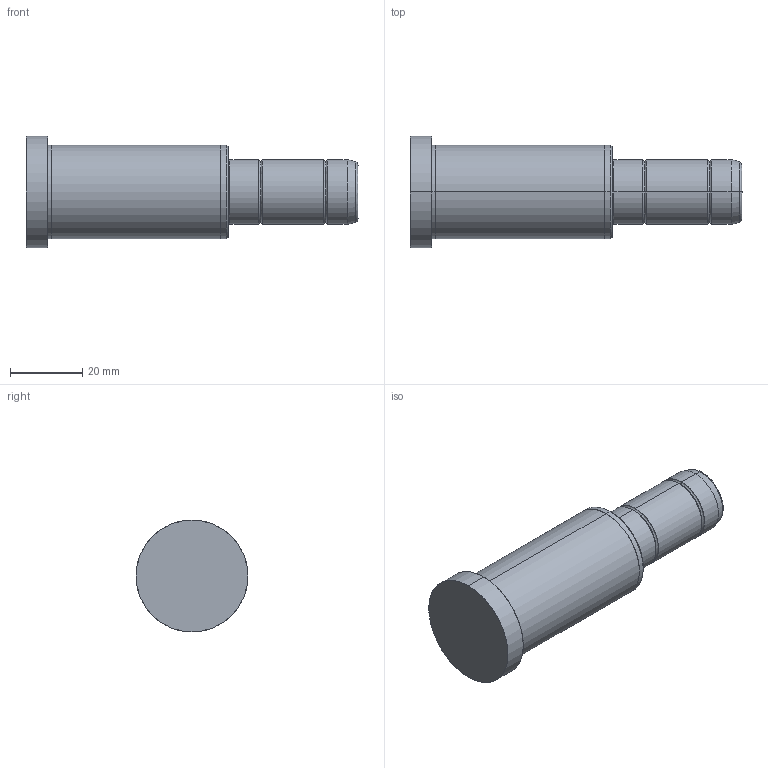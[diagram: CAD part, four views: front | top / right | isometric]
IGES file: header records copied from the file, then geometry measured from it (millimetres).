
Start section: SolidWorks IGES file using analytic representation for surfaces
Global section: file name: C:\Documents and Settings\kalite-mail\Desktop\IGS\D02\18\D02 - 18x56x36.IGS; native system: SolidWorks 2008; preprocessor: SolidWorks 2008; author: kalite-mail; date: 080616.152941; units: millimetre
Bounding box: 92 x 31 x 31 mm (x, y, z)
Surface area: 8183.1 mm2 (no closed solid volume)
Topology: 0 solids, 0 shells, 36 faces, 504 edges, 504 vertices
Faces by surface type: bspline 18, revolution 18
